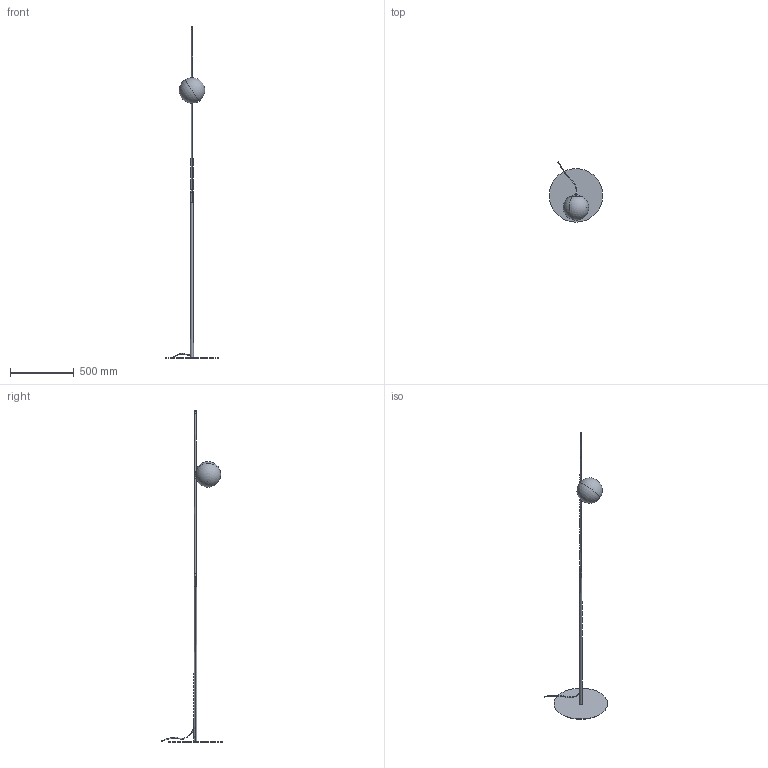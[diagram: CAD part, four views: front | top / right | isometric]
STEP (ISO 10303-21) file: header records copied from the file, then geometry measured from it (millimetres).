
FILE_DESCRIPTION (( 'STEP AP203' ), '1' );
FILE_NAME ('HP302BBEXT.step', '2023-02-16T13:58:52', ( '' ), ( '' ), 'SwSTEP 2.0', 'SolidWorks 2019', '' );
FILE_SCHEMA (( 'CONFIG_CONTROL_DESIGN' ));
Length unit declared in the file: millimetre
Products named in the file (9): PR23MU02-B; PR23MU02-G; PR23MU02-L4; PR23MU02-F; cavo^HP302BBEXT; PR23MU02-E; HP302BBEXT; PR23MU02-L3; PR23MU02-D2
Assembly tree (8 placements, depth 2):
  HP302BBEXT
    PR23MU02-B
    PR23MU02-L4
    PR23MU02-L3
    PR23MU02-D2
    PR23MU02-E
    PR23MU02-F
    PR23MU02-G
    cavo^HP302BBEXT
Bounding box: 420 x 473.05 x 2608 mm (x, y, z)
Volume: 869395.1 mm3; surface area: 824529.4 mm2
Topology: 8 solids, 8 shells, 107 faces, 270 edges, 176 vertices
Faces by surface type: cylinder 42, plane 27, cone 16, sphere 8, torus 8, bspline 6
Entity records: 7054 total; most frequent: CARTESIAN_POINT 3714, ORIENTED_EDGE 512, DIRECTION 491, EDGE_CURVE 256, AXIS2_PLACEMENT_3D 206, VERTEX_POINT 168, EDGE_LOOP 126, FACE_OUTER_BOUND 107
